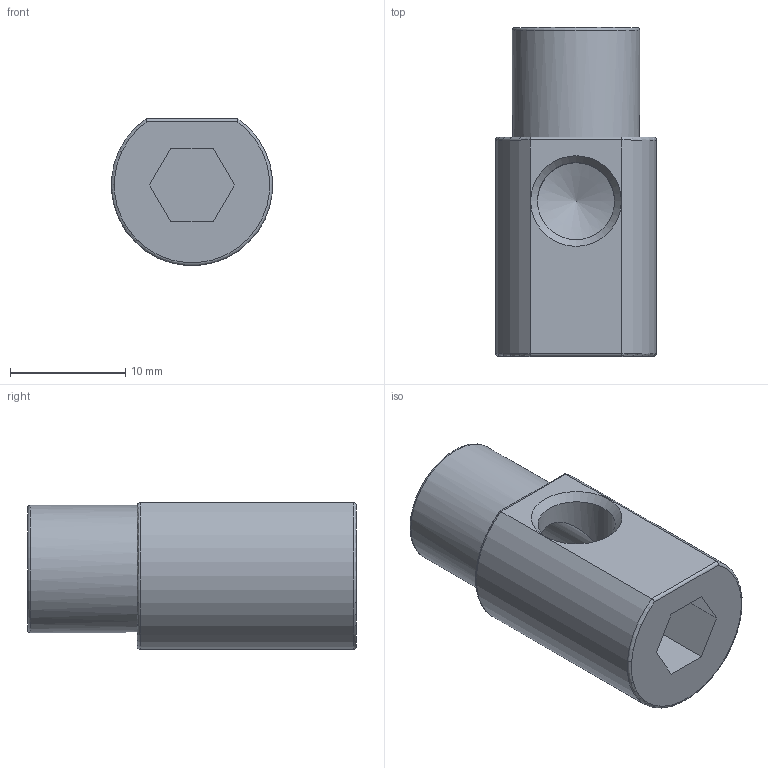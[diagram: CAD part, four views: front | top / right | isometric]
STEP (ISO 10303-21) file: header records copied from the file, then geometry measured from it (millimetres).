
FILE_DESCRIPTION(/* description */ (''),/* implementation_level */ '2;1');
FILE_NAME(/* name */ 'C:/Users/drich/Desktop/HKL16 v1.step',/* time_stamp */ '2019-12-27T17:57:58-06:00',/* author */ (''),/* organization */ (''),/* preprocessor_version */ 'ST-DEVELOPER v18',/* originating_system */ 'Autodesk Translation Framework v8.12.0.6',/* authorisation */ '');
FILE_SCHEMA (('AUTOMOTIVE_DESIGN { 1 0 10303 214 3 1 1 }'));
Length unit declared in the file: inch
Products named in the file (1): HKL16
Bounding box: 13.97 x 28.57 x 12.75 mm (x, y, z)
Volume: 2655.9 mm3; surface area: 2000.5 mm2
Topology: 1 solids, 1 shells, 25 faces, 62 edges, 40 vertices
Faces by surface type: plane 11, cylinder 6, cone 5, torus 3
Full cylindrical faces by diameter (mm): 6.697 x2, 11.074 x1
Entity records: 840 total; most frequent: CARTESIAN_POINT 196, DIRECTION 127, ORIENTED_EDGE 122, EDGE_CURVE 61, AXIS2_PLACEMENT_3D 48, VERTEX_POINT 40, LINE 31, VECTOR 31
